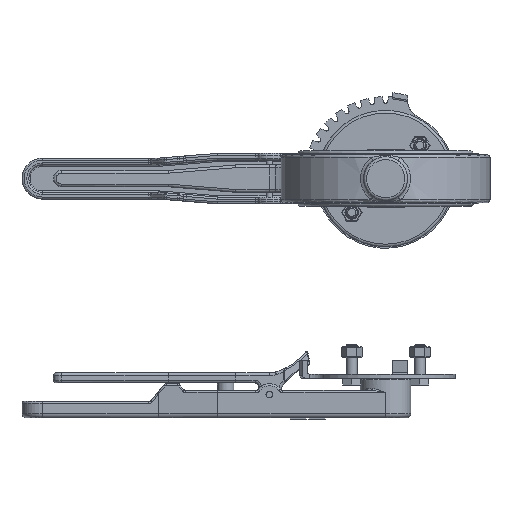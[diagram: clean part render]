
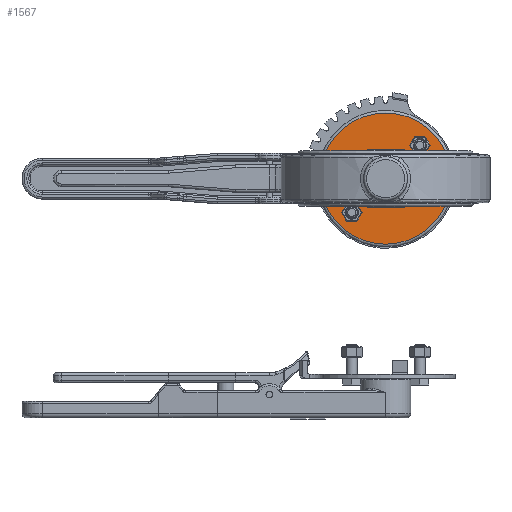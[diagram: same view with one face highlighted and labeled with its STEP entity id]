
A CAD part, front view. The second image highlights one B-rep face of the part: STEP entity #1567.
In plain terms, the highlighted planar face has unit normal (0, -1, 0).
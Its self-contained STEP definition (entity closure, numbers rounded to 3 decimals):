
#1567 = ADVANCED_FACE( '', ( #3727, #3728, #3729, #3730 ), #3731, .T. );
#3727 = FACE_OUTER_BOUND( '', #8096, .T. );
#3728 = FACE_BOUND( '', #8097, .T. );
#3729 = FACE_BOUND( '', #8098, .T. );
#3730 = FACE_BOUND( '', #8099, .T. );
#3731 = PLANE( '', #8100 );
#8096 = EDGE_LOOP( '', ( #15776 ) );
#8097 = EDGE_LOOP( '', ( #15777, #15778, #15779, #15780 ) );
#8098 = EDGE_LOOP( '', ( #15781 ) );
#8099 = EDGE_LOOP( '', ( #15782 ) );
#8100 = AXIS2_PLACEMENT_3D( '', #15783, #15784, #15785 );
#15776 = ORIENTED_EDGE( '', *, *, #22901, .T. );
#15777 = ORIENTED_EDGE( '', *, *, #21763, .T. );
#15778 = ORIENTED_EDGE( '', *, *, #22902, .T. );
#15779 = ORIENTED_EDGE( '', *, *, #22708, .T. );
#15780 = ORIENTED_EDGE( '', *, *, #22903, .T. );
#15781 = ORIENTED_EDGE( '', *, *, #22164, .T. );
#15782 = ORIENTED_EDGE( '', *, *, #22904, .T. );
#15783 = CARTESIAN_POINT( '', ( 0., 173., 0. ) );
#15784 = DIRECTION( '', ( 0., -1., 0. ) );
#15785 = DIRECTION( '', ( 0., 0., -1. ) );
#21763 = EDGE_CURVE( '', #24792, #24790, #24793, .F. );
#22164 = EDGE_CURVE( '', #25461, #25461, #25462, .F. );
#22708 = EDGE_CURVE( '', #26336, #26334, #26337, .F. );
#22901 = EDGE_CURVE( '', #26625, #26625, #26626, .T. );
#22902 = EDGE_CURVE( '', #24790, #26336, #26627, .T. );
#22903 = EDGE_CURVE( '', #26334, #24792, #26628, .T. );
#22904 = EDGE_CURVE( '', #26629, #26629, #26630, .F. );
#24790 = VERTEX_POINT( '', #29721 );
#24792 = VERTEX_POINT( '', #29726 );
#24793 = CIRCLE( '', #29727, 25. );
#25461 = VERTEX_POINT( '', #32404 );
#25462 = CIRCLE( '', #32405, 4.5 );
#26334 = VERTEX_POINT( '', #34844 );
#26336 = VERTEX_POINT( '', #34849 );
#26337 = CIRCLE( '', #34850, 25. );
#26625 = VERTEX_POINT( '', #36673 );
#26626 = CIRCLE( '', #36674, 48. );
#26627 = LINE( '', #36675, #36676 );
#26628 = LINE( '', #36677, #36678 );
#26629 = VERTEX_POINT( '', #36679 );
#26630 = CIRCLE( '', #36680, 4.5 );
#29721 = CARTESIAN_POINT( '', ( 13.565, 173., -21. ) );
#29726 = CARTESIAN_POINT( '', ( 13.565, 173., 21. ) );
#29727 = AXIS2_PLACEMENT_3D( '', #43986, #43987, #43988 );
#32404 = CARTESIAN_POINT( '', ( 25.179, 173., 20.679 ) );
#32405 = AXIS2_PLACEMENT_3D( '', #44476, #44477, #44478 );
#34844 = CARTESIAN_POINT( '', ( -13.565, 173., 21. ) );
#34849 = CARTESIAN_POINT( '', ( -13.565, 173., -21. ) );
#34850 = AXIS2_PLACEMENT_3D( '', #45212, #45213, #45214 );
#36673 = CARTESIAN_POINT( '', ( 0., 173., -48. ) );
#36674 = AXIS2_PLACEMENT_3D( '', #45444, #45445, #45446 );
#36675 = CARTESIAN_POINT( '', ( 0., 173., -21. ) );
#36676 = VECTOR( '', #45447, 1000. );
#36677 = CARTESIAN_POINT( '', ( 0., 173., 21. ) );
#36678 = VECTOR( '', #45448, 1000. );
#36679 = CARTESIAN_POINT( '', ( -24.424, 173., -28.924 ) );
#36680 = AXIS2_PLACEMENT_3D( '', #45449, #45450, #45451 );
#43986 = CARTESIAN_POINT( '', ( 0., 173., 0. ) );
#43987 = DIRECTION( '', ( 0., -1., 0. ) );
#43988 = DIRECTION( '', ( 0., 0., -1. ) );
#44476 = CARTESIAN_POINT( '', ( 25.179, 173., 25.179 ) );
#44477 = DIRECTION( '', ( 0., -1., 0. ) );
#44478 = DIRECTION( '', ( 0., 0., -1. ) );
#45212 = CARTESIAN_POINT( '', ( 0., 173., 0. ) );
#45213 = DIRECTION( '', ( 0., -1., 0. ) );
#45214 = DIRECTION( '', ( 0., 0., -1. ) );
#45444 = CARTESIAN_POINT( '', ( 0., 173., 0. ) );
#45445 = DIRECTION( '', ( 0., -1., 0. ) );
#45446 = DIRECTION( '', ( 0., 0., -1. ) );
#45447 = DIRECTION( '', ( -1., 0., 0. ) );
#45448 = DIRECTION( '', ( 1., 0., 0. ) );
#45449 = CARTESIAN_POINT( '', ( -24.424, 173., -24.424 ) );
#45450 = DIRECTION( '', ( 0., -1., 0. ) );
#45451 = DIRECTION( '', ( 0., 0., -1. ) );
